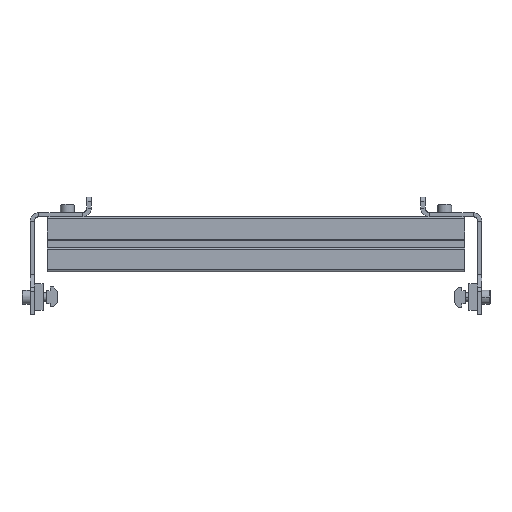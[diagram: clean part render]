
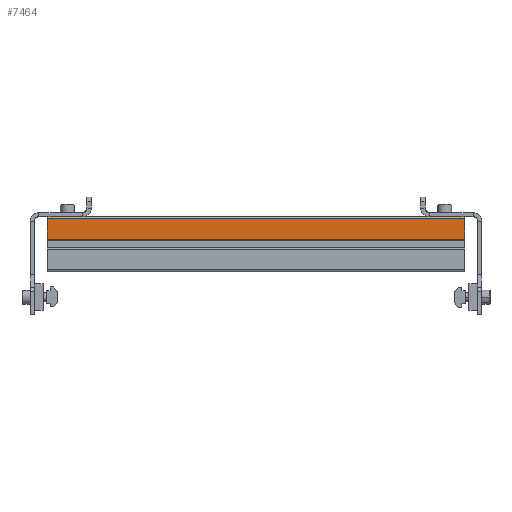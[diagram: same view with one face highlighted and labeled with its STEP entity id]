
A CAD part, top view. The second image highlights one B-rep face of the part: STEP entity #7464.
In plain terms, the highlighted planar face has unit normal (0, 0, 1) as drawn and (0, 1, 0) by its records, which use the part's own axes.
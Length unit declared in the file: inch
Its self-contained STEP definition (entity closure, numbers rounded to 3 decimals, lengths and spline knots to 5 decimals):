
#124 = EDGE_CURVE ( 'NONE', #6068, #764, #4772, .T. ) ;
#404 = DIRECTION ( 'NONE',  ( 1., 0., 0. ) ) ;
#764 = VERTEX_POINT ( 'NONE', #4028 ) ;
#786 = EDGE_CURVE ( 'NONE', #4242, #1637, #1647, .T. ) ;
#1190 = PLANE ( 'NONE',  #7053 ) ;
#1227 = VECTOR ( 'NONE', #4030, 39.37008 ) ;
#1637 = VERTEX_POINT ( 'NONE', #2603 ) ;
#1647 = LINE ( 'NONE', #4000, #2492 ) ;
#1979 = EDGE_CURVE ( 'NONE', #4242, #764, #4612, .T. ) ;
#2188 = CARTESIAN_POINT ( 'NONE',  ( -0.14758, 0.441, -75. ) ) ;
#2389 = DIRECTION ( 'NONE',  ( 0., 0., -1. ) ) ;
#2492 = VECTOR ( 'NONE', #404, 39.37008 ) ;
#2603 = CARTESIAN_POINT ( 'NONE',  ( -0.14758, 0.441, -5.98 ) ) ;
#3291 = DIRECTION ( 'NONE',  ( 0., 0., 1. ) ) ;
#3324 = CARTESIAN_POINT ( 'NONE',  ( -0.725, 0.441, 75. ) ) ;
#3505 = LINE ( 'NONE', #2188, #3692 ) ;
#3598 = DIRECTION ( 'NONE',  ( -1., 0., 0. ) ) ;
#3692 = VECTOR ( 'NONE', #3291, 39.37008 ) ;
#3753 = EDGE_CURVE ( 'NONE', #1637, #6068, #3505, .T. ) ;
#4000 = CARTESIAN_POINT ( 'NONE',  ( 0.7875, 0.441, -5.98 ) ) ;
#4028 = CARTESIAN_POINT ( 'NONE',  ( -0.725, 0.441, 5.98 ) ) ;
#4030 = DIRECTION ( 'NONE',  ( 0., 0., 1. ) ) ;
#4242 = VERTEX_POINT ( 'NONE', #6749 ) ;
#4270 = CARTESIAN_POINT ( 'NONE',  ( -0.14758, 0.441, 5.98 ) ) ;
#4349 = ORIENTED_EDGE ( 'NONE', *, *, #3753, .F. ) ;
#4612 = LINE ( 'NONE', #3324, #1227 ) ;
#4772 = LINE ( 'NONE', #4784, #5409 ) ;
#4784 = CARTESIAN_POINT ( 'NONE',  ( 0.7875, 0.441, 5.98 ) ) ;
#5382 = DIRECTION ( 'NONE',  ( 0., -1., 0. ) ) ;
#5409 = VECTOR ( 'NONE', #3598, 39.37008 ) ;
#5581 = ORIENTED_EDGE ( 'NONE', *, *, #786, .F. ) ;
#5946 = CARTESIAN_POINT ( 'NONE',  ( -0.7875, 0.441, 75. ) ) ;
#6068 = VERTEX_POINT ( 'NONE', #4270 ) ;
#6267 = ORIENTED_EDGE ( 'NONE', *, *, #1979, .T. ) ;
#6465 = FACE_OUTER_BOUND ( 'NONE', #6547, .T. ) ;
#6547 = EDGE_LOOP ( 'NONE', ( #4349, #5581, #6267, #7235 ) ) ;
#6749 = CARTESIAN_POINT ( 'NONE',  ( -0.725, 0.441, -5.98 ) ) ;
#7053 = AXIS2_PLACEMENT_3D ( 'NONE', #5946, #5382, #2389 ) ;
#7235 = ORIENTED_EDGE ( 'NONE', *, *, #124, .F. ) ;
#7464 = ADVANCED_FACE ( 'NONE', ( #6465 ), #1190, .F. ) ;
